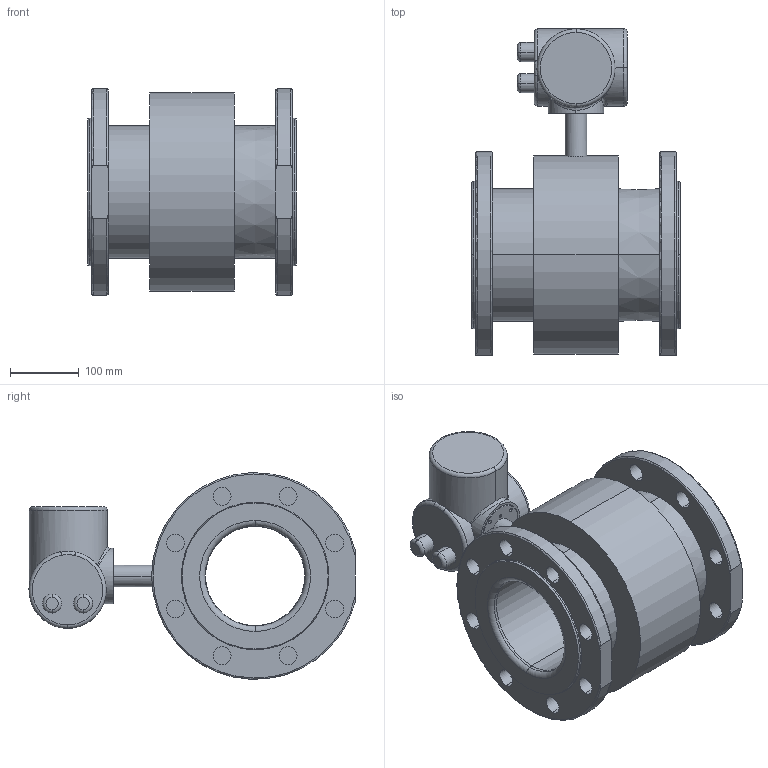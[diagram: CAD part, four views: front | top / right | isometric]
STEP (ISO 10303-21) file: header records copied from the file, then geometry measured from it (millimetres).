
FILE_DESCRIPTION (( 'STEP AP203' ), '1' );
FILE_NAME ('Ðàñõîäîìåð-ñ÷åò÷èê ýëåêòðîìàãíèòíûé ÏÈÒÅÐÔËÎÓ Ò3-150 Ex .STEP', '2022-06-24T08:24:08', ( '' ), ( '' ), 'SwSTEP 2.0', 'SolidWorks 2016', '' );
FILE_SCHEMA (( 'CONFIG_CONTROL_DESIGN' ));
Length unit declared in the file: millimetre
Products named in the file (1): Ðàñõîäîìåð-ñ÷åò÷èê ýëåêòðîìàãíèòíûé ÏÈÒÅÐÔËÎÓ Ò3-150 Ex 
Bounding box: 302 x 473 x 299.7 mm (x, y, z)
Volume: 12273758.3 mm3; surface area: 772842.6 mm2
Topology: 5 solids, 5 shells, 251 faces, 622 edges, 392 vertices
Faces by surface type: cylinder 112, cone 60, plane 46, torus 28, bspline 4, sphere 1
Entity records: 10509 total; most frequent: CARTESIAN_POINT 4311, DIRECTION 1349, ORIENTED_EDGE 1236, EDGE_CURVE 618, AXIS2_PLACEMENT_3D 581, VERTEX_POINT 392, CIRCLE 333, EDGE_LOOP 314
